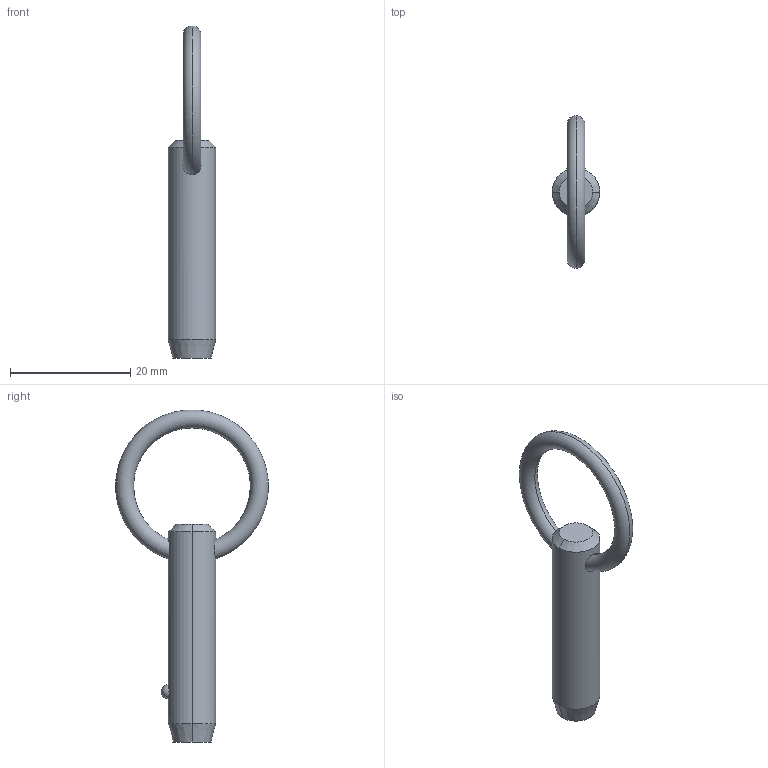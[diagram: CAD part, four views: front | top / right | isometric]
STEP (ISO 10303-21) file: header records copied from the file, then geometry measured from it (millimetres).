
FILE_DESCRIPTION (( 'STEP AP203' ), '1' );
FILE_NAME ('P1250.031-080.step', '2019-07-29T19:47:46', ( '' ), ( '' ), 'SwSTEP 2.0', 'SolidWorks 2017', '' );
FILE_SCHEMA (( 'CONFIG_CONTROL_DESIGN' ));
Length unit declared in the file: millimetre
Products named in the file (1): P1250.031-080
Bounding box: 7.93 x 25.36 x 55.2 mm (x, y, z)
Volume: 2186.9 mm3; surface area: 1536.5 mm2
Topology: 1 solids, 1 shells, 12 faces, 28 edges, 17 vertices
Faces by surface type: cone 4, torus 2, sphere 2, cylinder 2, plane 2
Entity records: 509 total; most frequent: CARTESIAN_POINT 176, DIRECTION 56, ORIENTED_EDGE 48, AXIS2_PLACEMENT_3D 25, EDGE_CURVE 24, EDGE_LOOP 15, VERTEX_POINT 15, CIRCLE 12
